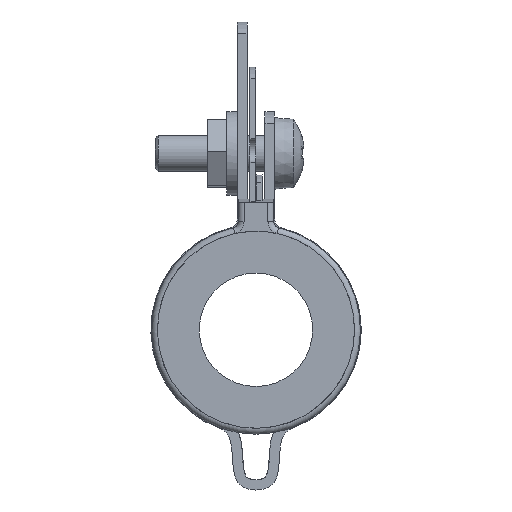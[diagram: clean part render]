
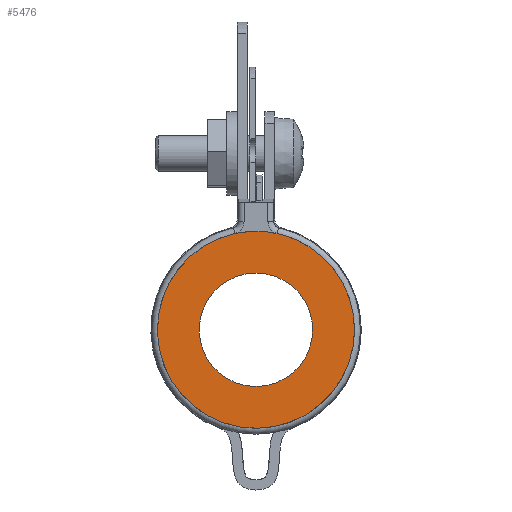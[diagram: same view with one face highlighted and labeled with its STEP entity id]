
A CAD part, front view. The second image highlights one B-rep face of the part: STEP entity #5476.
In plain terms, the highlighted planar face has unit normal (0, -1, 0).
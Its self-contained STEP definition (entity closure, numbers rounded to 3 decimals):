
#240=FACE_BOUND($,#906,.T.);
#535=FACE_OUTER_BOUND($,#905,.T.);
#905=EDGE_LOOP($,(#4627));
#906=EDGE_LOOP($,(#4628));
#1194=CIRCLE($,#6013,8.25);
#1199=CIRCLE($,#6054,4.75);
#2471=VERTEX_POINT($,#9413);
#2482=VERTEX_POINT($,#9475);
#3188=EDGE_CURVE($,#2471,#2471,#1194,.T.);
#3203=EDGE_CURVE($,#2482,#2482,#1199,.T.);
#4627=ORIENTED_EDGE($,*,*,#3188,.T.);
#4628=ORIENTED_EDGE($,*,*,#3203,.T.);
#4866=PLANE($,#6057);
#5476=ADVANCED_FACE($,(#535,#240),#4866,.T.);
#6013=AXIS2_PLACEMENT_3D($,#9414,#7496,#7497);
#6054=AXIS2_PLACEMENT_3D($,#9476,#7588,#7589);
#6057=AXIS2_PLACEMENT_3D($,#9479,#7594,#7595);
#7496=DIRECTION('center_axis',(0.,-1.,0.));
#7497=DIRECTION('ref_axis',(-1.,0.,0.));
#7588=DIRECTION('center_axis',(0.,1.,0.));
#7589=DIRECTION('ref_axis',(1.,0.,0.));
#7594=DIRECTION('center_axis',(0.,-1.,0.));
#7595=DIRECTION('ref_axis',(0.,0.,-1.));
#9413=CARTESIAN_POINT('',(8.25,0.,0.));
#9414=CARTESIAN_POINT('Origin',(0.,0.,0.));
#9475=CARTESIAN_POINT('',(-4.75,0.,0.));
#9476=CARTESIAN_POINT('Origin',(0.,0.,0.));
#9479=CARTESIAN_POINT('Origin',(0.,0.,0.));
